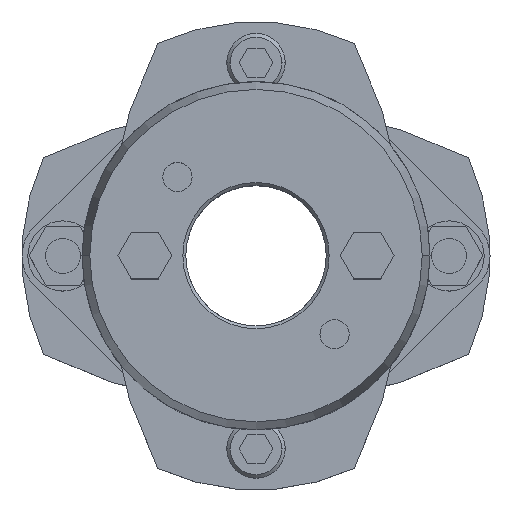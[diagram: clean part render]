
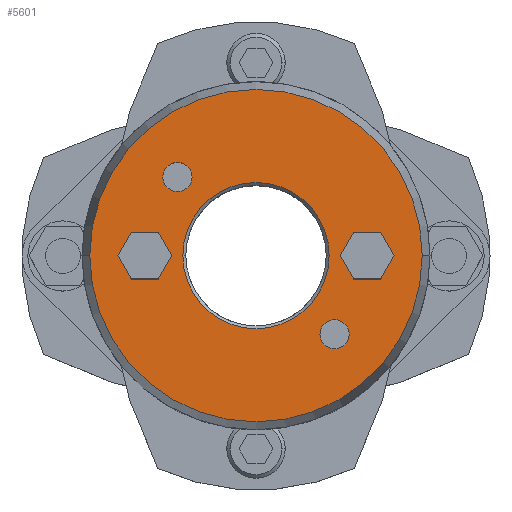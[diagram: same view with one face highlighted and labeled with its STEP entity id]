
A CAD part, top view. The second image highlights one B-rep face of the part: STEP entity #5601.
In plain terms, the highlighted planar face has unit normal (0, 0, 1).
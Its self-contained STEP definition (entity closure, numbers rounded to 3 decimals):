
#857=CARTESIAN_POINT('',(-12.5,0.,35.875));
#858=VERTEX_POINT('',#857);
#874=CARTESIAN_POINT('',(12.5,0.,35.875));
#875=VERTEX_POINT('',#874);
#882=CARTESIAN_POINT('',(0.,0.,35.875));
#883=DIRECTION('',(0.0,0.0,1.0));
#884=DIRECTION('',(-1.0,0.0,0.0));
#885=AXIS2_PLACEMENT_3D('',#882,#883,#884);
#886=CIRCLE('',#885,12.5);
#887=EDGE_CURVE('',#875,#858,#886,.T.);
#1003=CARTESIAN_POINT('',(28.41,0.,35.875));
#1004=VERTEX_POINT('',#1003);
#1013=CARTESIAN_POINT('',(-28.41,0.,35.875));
#1014=VERTEX_POINT('',#1013);
#1015=CARTESIAN_POINT('',(0.,0.,35.875));
#1016=DIRECTION('',(0.0,0.0,-1.0));
#1017=DIRECTION('',(1.0,0.0,0.0));
#1018=AXIS2_PLACEMENT_3D('',#1015,#1016,#1017);
#1019=CIRCLE('',#1018,28.41);
#1020=EDGE_CURVE('',#1004,#1014,#1019,.T.);
#1189=CARTESIAN_POINT('',(-15.935,13.435,35.875));
#1190=VERTEX_POINT('',#1189);
#1206=CARTESIAN_POINT('',(-10.935,13.435,35.875));
#1207=VERTEX_POINT('',#1206);
#1214=CARTESIAN_POINT('',(-13.435,13.435,35.875));
#1215=DIRECTION('',(0.0,0.0,-1.0));
#1216=DIRECTION('',(-1.0,0.0,0.0));
#1217=AXIS2_PLACEMENT_3D('',#1214,#1215,#1216);
#1218=CIRCLE('',#1217,2.5);
#1219=EDGE_CURVE('',#1190,#1207,#1218,.T.);
#1231=CARTESIAN_POINT('',(10.935,-13.435,35.875));
#1232=VERTEX_POINT('',#1231);
#1248=CARTESIAN_POINT('',(15.935,-13.435,35.875));
#1249=VERTEX_POINT('',#1248);
#1256=CARTESIAN_POINT('',(13.435,-13.435,35.875));
#1257=DIRECTION('',(0.0,0.0,-1.0));
#1258=DIRECTION('',(-1.0,0.0,0.0));
#1259=AXIS2_PLACEMENT_3D('',#1256,#1257,#1258);
#1260=CIRCLE('',#1259,2.5);
#1261=EDGE_CURVE('',#1232,#1249,#1260,.T.);
#4727=CARTESIAN_POINT('',(14.381,0.,35.875));
#4728=VERTEX_POINT('',#4727);
#4735=CARTESIAN_POINT('',(16.691,-4.,35.875));
#4736=VERTEX_POINT('',#4735);
#4737=CARTESIAN_POINT('',(16.691,-4.,35.875));
#4738=DIRECTION('',(-0.5,0.866,0.0));
#4739=VECTOR('',#4738,4.619);
#4740=LINE('',#4737,#4739);
#4741=EDGE_CURVE('',#4736,#4728,#4740,.T.);
#4765=CARTESIAN_POINT('',(16.691,4.,35.875));
#4766=VERTEX_POINT('',#4765);
#4773=CARTESIAN_POINT('',(14.381,0.,35.875));
#4774=DIRECTION('',(0.5,0.866,0.0));
#4775=VECTOR('',#4774,4.619);
#4776=LINE('',#4773,#4775);
#4777=EDGE_CURVE('',#4728,#4766,#4776,.T.);
#4796=CARTESIAN_POINT('',(21.309,4.,35.875));
#4797=VERTEX_POINT('',#4796);
#4804=CARTESIAN_POINT('',(16.691,4.,35.875));
#4805=DIRECTION('',(1.0,0.0,0.0));
#4806=VECTOR('',#4805,4.619);
#4807=LINE('',#4804,#4806);
#4808=EDGE_CURVE('',#4766,#4797,#4807,.T.);
#4827=CARTESIAN_POINT('',(23.619,0.,35.875));
#4828=VERTEX_POINT('',#4827);
#4835=CARTESIAN_POINT('',(21.309,4.,35.875));
#4836=DIRECTION('',(0.5,-0.866,0.0));
#4837=VECTOR('',#4836,4.619);
#4838=LINE('',#4835,#4837);
#4839=EDGE_CURVE('',#4797,#4828,#4838,.T.);
#4858=CARTESIAN_POINT('',(21.309,-4.,35.875));
#4859=VERTEX_POINT('',#4858);
#4866=CARTESIAN_POINT('',(23.619,0.,35.875));
#4867=DIRECTION('',(-0.5,-0.866,0.0));
#4868=VECTOR('',#4867,4.619);
#4869=LINE('',#4866,#4868);
#4870=EDGE_CURVE('',#4828,#4859,#4869,.T.);
#4888=CARTESIAN_POINT('',(21.309,-4.,35.875));
#4889=DIRECTION('',(-1.0,0.0,0.0));
#4890=VECTOR('',#4889,4.619);
#4891=LINE('',#4888,#4890);
#4892=EDGE_CURVE('',#4859,#4736,#4891,.T.);
#4927=CARTESIAN_POINT('',(-23.619,0.,35.875));
#4928=VERTEX_POINT('',#4927);
#4935=CARTESIAN_POINT('',(-21.309,-4.,35.875));
#4936=VERTEX_POINT('',#4935);
#4937=CARTESIAN_POINT('',(-21.309,-4.,35.875));
#4938=DIRECTION('',(-0.5,0.866,0.0));
#4939=VECTOR('',#4938,4.619);
#4940=LINE('',#4937,#4939);
#4941=EDGE_CURVE('',#4936,#4928,#4940,.T.);
#4965=CARTESIAN_POINT('',(-21.309,4.,35.875));
#4966=VERTEX_POINT('',#4965);
#4973=CARTESIAN_POINT('',(-23.619,0.,35.875));
#4974=DIRECTION('',(0.5,0.866,0.0));
#4975=VECTOR('',#4974,4.619);
#4976=LINE('',#4973,#4975);
#4977=EDGE_CURVE('',#4928,#4966,#4976,.T.);
#4996=CARTESIAN_POINT('',(-16.691,4.,35.875));
#4997=VERTEX_POINT('',#4996);
#5004=CARTESIAN_POINT('',(-21.309,4.,35.875));
#5005=DIRECTION('',(1.0,0.0,0.0));
#5006=VECTOR('',#5005,4.619);
#5007=LINE('',#5004,#5006);
#5008=EDGE_CURVE('',#4966,#4997,#5007,.T.);
#5027=CARTESIAN_POINT('',(-14.381,0.,35.875));
#5028=VERTEX_POINT('',#5027);
#5035=CARTESIAN_POINT('',(-16.691,4.,35.875));
#5036=DIRECTION('',(0.5,-0.866,0.0));
#5037=VECTOR('',#5036,4.619);
#5038=LINE('',#5035,#5037);
#5039=EDGE_CURVE('',#4997,#5028,#5038,.T.);
#5058=CARTESIAN_POINT('',(-16.691,-4.,35.875));
#5059=VERTEX_POINT('',#5058);
#5066=CARTESIAN_POINT('',(-14.381,0.,35.875));
#5067=DIRECTION('',(-0.5,-0.866,0.0));
#5068=VECTOR('',#5067,4.619);
#5069=LINE('',#5066,#5068);
#5070=EDGE_CURVE('',#5028,#5059,#5069,.T.);
#5088=CARTESIAN_POINT('',(-16.691,-4.,35.875));
#5089=DIRECTION('',(-1.0,0.0,0.0));
#5090=VECTOR('',#5089,4.619);
#5091=LINE('',#5088,#5090);
#5092=EDGE_CURVE('',#5059,#4936,#5091,.T.);
#5118=CARTESIAN_POINT('',(13.435,-13.435,35.875));
#5119=DIRECTION('',(0.0,0.0,-1.0));
#5120=DIRECTION('',(-1.0,0.0,0.0));
#5121=AXIS2_PLACEMENT_3D('',#5118,#5119,#5120);
#5122=CIRCLE('',#5121,2.5);
#5123=EDGE_CURVE('',#1249,#1232,#5122,.T.);
#5152=CARTESIAN_POINT('',(-13.435,13.435,35.875));
#5153=DIRECTION('',(0.0,0.0,-1.0));
#5154=DIRECTION('',(-1.0,0.0,0.0));
#5155=AXIS2_PLACEMENT_3D('',#5152,#5153,#5154);
#5156=CIRCLE('',#5155,2.5);
#5157=EDGE_CURVE('',#1207,#1190,#5156,.T.);
#5548=CARTESIAN_POINT('',(0.,0.,35.875));
#5549=DIRECTION('',(0.0,0.0,-1.0));
#5550=DIRECTION('',(1.0,0.0,0.0));
#5551=AXIS2_PLACEMENT_3D('',#5548,#5549,#5550);
#5552=CIRCLE('',#5551,28.41);
#5553=EDGE_CURVE('',#1014,#1004,#5552,.T.);
#5558=CARTESIAN_POINT('',(-2.364,0.,35.875));
#5559=DIRECTION('',(0.0,0.0,1.0));
#5560=DIRECTION('',(-1.0,0.0,0.0));
#5561=AXIS2_PLACEMENT_3D('',#5558,#5559,#5560);
#5562=PLANE('',#5561);
#5563=ORIENTED_EDGE('',*,*,#5553,.F.);
#5564=ORIENTED_EDGE('',*,*,#1020,.F.);
#5565=EDGE_LOOP('',(#5563,#5564));
#5566=FACE_OUTER_BOUND('',#5565,.T.);
#5567=ORIENTED_EDGE('',*,*,#4741,.T.);
#5568=ORIENTED_EDGE('',*,*,#4777,.T.);
#5569=ORIENTED_EDGE('',*,*,#4808,.T.);
#5570=ORIENTED_EDGE('',*,*,#4839,.T.);
#5571=ORIENTED_EDGE('',*,*,#4870,.T.);
#5572=ORIENTED_EDGE('',*,*,#4892,.T.);
#5573=EDGE_LOOP('',(#5567,#5568,#5569,#5570,#5571,#5572));
#5574=FACE_BOUND('',#5573,.T.);
#5575=ORIENTED_EDGE('',*,*,#4941,.T.);
#5576=ORIENTED_EDGE('',*,*,#4977,.T.);
#5577=ORIENTED_EDGE('',*,*,#5008,.T.);
#5578=ORIENTED_EDGE('',*,*,#5039,.T.);
#5579=ORIENTED_EDGE('',*,*,#5070,.T.);
#5580=ORIENTED_EDGE('',*,*,#5092,.T.);
#5581=EDGE_LOOP('',(#5575,#5576,#5577,#5578,#5579,#5580));
#5582=FACE_BOUND('',#5581,.T.);
#5583=ORIENTED_EDGE('',*,*,#1261,.T.);
#5584=ORIENTED_EDGE('',*,*,#5123,.T.);
#5585=EDGE_LOOP('',(#5583,#5584));
#5586=FACE_BOUND('',#5585,.T.);
#5587=ORIENTED_EDGE('',*,*,#1219,.T.);
#5588=ORIENTED_EDGE('',*,*,#5157,.T.);
#5589=EDGE_LOOP('',(#5587,#5588));
#5590=FACE_BOUND('',#5589,.T.);
#5591=ORIENTED_EDGE('',*,*,#887,.F.);
#5592=CARTESIAN_POINT('',(0.,0.,35.875));
#5593=DIRECTION('',(0.0,0.0,1.0));
#5594=DIRECTION('',(-1.0,0.0,0.0));
#5595=AXIS2_PLACEMENT_3D('',#5592,#5593,#5594);
#5596=CIRCLE('',#5595,12.5);
#5597=EDGE_CURVE('',#858,#875,#5596,.T.);
#5598=ORIENTED_EDGE('',*,*,#5597,.F.);
#5599=EDGE_LOOP('',(#5591,#5598));
#5600=FACE_BOUND('',#5599,.T.);
#5601=ADVANCED_FACE('',(#5566,#5574,#5582,#5586,#5590,#5600),#5562,.T.);
